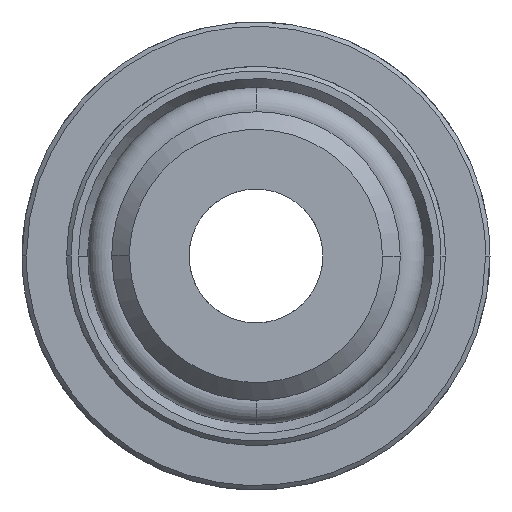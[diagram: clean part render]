
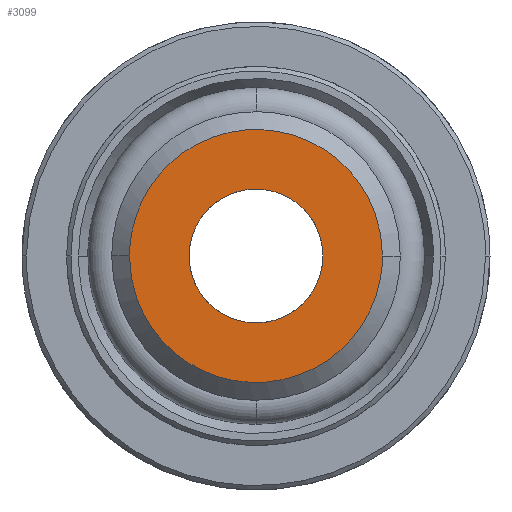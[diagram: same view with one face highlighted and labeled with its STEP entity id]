
A CAD part, front view. The second image highlights one B-rep face of the part: STEP entity #3099.
In plain terms, the highlighted planar face has unit normal (0, -1, 0).
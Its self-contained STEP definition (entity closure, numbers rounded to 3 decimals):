
#32 = CARTESIAN_POINT ( 'NONE',  ( -5.675, 0., -0.745 ) ) ;
#37 = CARTESIAN_POINT ( 'NONE',  ( 1.484, 0., 5.528 ) ) ;
#48 = CARTESIAN_POINT ( 'NONE',  ( 5.528, 0., -1.484 ) ) ;
#51 = CARTESIAN_POINT ( 'NONE',  ( 5.675, 0., 0.745 ) ) ;
#130 = CARTESIAN_POINT ( 'NONE',  ( -2.402, 0., 1.84 ) ) ;
#142 = CARTESIAN_POINT ( 'NONE',  ( 3., 0., 0. ) ) ;
#157 = CARTESIAN_POINT ( 'NONE',  ( -0.397, 0., -3. ) ) ;
#162 = CARTESIAN_POINT ( 'NONE',  ( -3., 0., 0. ) ) ;
#189 = ORIENTED_EDGE ( 'NONE', *, *, #3337, .T. ) ;
#206 = CARTESIAN_POINT ( 'NONE',  ( -2.86, 0., -4.958 ) ) ;
#303 = CARTESIAN_POINT ( 'NONE',  ( 3., 0., 0. ) ) ;
#307 = DIRECTION ( 'NONE',  ( 0., 0., -1. ) ) ;
#322 = CARTESIAN_POINT ( 'NONE',  ( -2.86, 0., 4.958 ) ) ;
#369 = CARTESIAN_POINT ( 'NONE',  ( -1.84, 0., 2.402 ) ) ;
#385 = CARTESIAN_POINT ( 'NONE',  ( -0.781, 0., 2.924 ) ) ;
#413 = CARTESIAN_POINT ( 'NONE',  ( -3., 0., -0.398 ) ) ;
#469 = CARTESIAN_POINT ( 'NONE',  ( 0.781, 0., -2.924 ) ) ;
#530 = CARTESIAN_POINT ( 'NONE',  ( 3.486, 0., -4.539 ) ) ;
#543 = CARTESIAN_POINT ( 'NONE',  ( 5.675, 0., 0. ) ) ;
#572 = VERTEX_POINT ( 'NONE', #2365 ) ;
#644 = CARTESIAN_POINT ( 'NONE',  ( 1.84, 0., 2.402 ) ) ;
#663 = CARTESIAN_POINT ( 'NONE',  ( 2.619, 0., 1.515 ) ) ;
#675 = CARTESIAN_POINT ( 'NONE',  ( -2.619, 0., -1.515 ) ) ;
#783 = ORIENTED_EDGE ( 'NONE', *, *, #2669, .T. ) ;
#791 = CARTESIAN_POINT ( 'NONE',  ( 1.484, 0., -5.528 ) ) ;
#808 = CARTESIAN_POINT ( 'NONE',  ( -5.528, 0., -1.484 ) ) ;
#830 = CARTESIAN_POINT ( 'NONE',  ( 4.958, 0., 2.86 ) ) ;
#908 = CARTESIAN_POINT ( 'NONE',  ( -1.515, 0., 2.619 ) ) ;
#937 = CARTESIAN_POINT ( 'NONE',  ( 3., 0., -0.397 ) ) ;
#958 = CARTESIAN_POINT ( 'NONE',  ( 0.781, 0., 2.924 ) ) ;
#990 = CARTESIAN_POINT ( 'NONE',  ( 0.397, 0., -3. ) ) ;
#1087 = CARTESIAN_POINT ( 'NONE',  ( 5.675, 0., -0.745 ) ) ;
#1091 = CARTESIAN_POINT ( 'NONE',  ( -4.958, 0., 2.86 ) ) ;
#1106 = B_SPLINE_CURVE_WITH_KNOTS ( 'NONE', 3,
 ( #162, #1189, #1498, #3370, #130, #369, #908, #385, #1727, #3315, #958, #1154, #644, #3297, #663, #1990, #2032, #2244 ),
 .UNSPECIFIED., .F., .F.,
 ( 4, 2, 2, 2, 2, 2, 2, 2, 4 ),
 ( 0., 0.063, 0.125, 0.188, 0.25, 0.313, 0.375, 0.438, 0.5 ),
 .UNSPECIFIED. ) ;
#1154 = CARTESIAN_POINT ( 'NONE',  ( 1.515, 0., 2.62 ) ) ;
#1172 = VERTEX_POINT ( 'NONE', #1210 ) ;
#1182 = CARTESIAN_POINT ( 'NONE',  ( 1.515, 0., -2.619 ) ) ;
#1189 = CARTESIAN_POINT ( 'NONE',  ( -3., 0., 0.398 ) ) ;
#1210 = CARTESIAN_POINT ( 'NONE',  ( -5.675, 0., 0. ) ) ;
#1229 = B_SPLINE_CURVE_WITH_KNOTS ( 'NONE', 3,
 ( #1646, #51, #2176, #830, #2969, #1942, #3249, #37, #3303, #1368, #2690, #322, #1908, #2708, #1091, #1892, #2986, #2159 ),
 .UNSPECIFIED., .F., .F.,
 ( 4, 2, 2, 2, 2, 2, 2, 2, 4 ),
 ( 0.5, 0.563, 0.625, 0.688, 0.75, 0.813, 0.875, 0.938, 1. ),
 .UNSPECIFIED. ) ;
#1235 = CARTESIAN_POINT ( 'NONE',  ( -2.924, 0., -0.781 ) ) ;
#1368 = CARTESIAN_POINT ( 'NONE',  ( -0.745, 0., 5.675 ) ) ;
#1469 = CARTESIAN_POINT ( 'NONE',  ( -3., 0., 0. ) ) ;
#1498 = CARTESIAN_POINT ( 'NONE',  ( -2.924, 0., 0.781 ) ) ;
#1506 = CARTESIAN_POINT ( 'NONE',  ( -3.486, 0., -4.539 ) ) ;
#1528 = CARTESIAN_POINT ( 'NONE',  ( -1.84, 0., -2.402 ) ) ;
#1600 = VERTEX_POINT ( 'NONE', #303 ) ;
#1610 = B_SPLINE_CURVE_WITH_KNOTS ( 'NONE', 3,
 ( #142, #937, #2004, #2872, #2609, #2330, #1182, #469, #990, #157, #2259, #3081, #1528, #3331, #675, #1235, #413, #1986 ),
 .UNSPECIFIED., .F., .F.,
 ( 4, 2, 2, 2, 2, 2, 2, 2, 4 ),
 ( 0.5, 0.563, 0.625, 0.688, 0.75, 0.813, 0.875, 0.938, 1. ),
 .UNSPECIFIED. ) ;
#1646 = CARTESIAN_POINT ( 'NONE',  ( 5.675, 0., 0. ) ) ;
#1665 = CARTESIAN_POINT ( 'NONE',  ( -4.338, 0., 0. ) ) ;
#1727 = CARTESIAN_POINT ( 'NONE',  ( -0.397, 0., 3. ) ) ;
#1775 = CARTESIAN_POINT ( 'NONE',  ( -4.958, 0., -2.86 ) ) ;
#1892 = CARTESIAN_POINT ( 'NONE',  ( -5.528, 0., 1.484 ) ) ;
#1905 = AXIS2_PLACEMENT_3D ( 'NONE', #1665, #3271, #307 ) ;
#1908 = CARTESIAN_POINT ( 'NONE',  ( -3.486, 0., 4.539 ) ) ;
#1942 = CARTESIAN_POINT ( 'NONE',  ( 3.486, 0., 4.539 ) ) ;
#1944 = FACE_OUTER_BOUND ( 'NONE', #3183, .T. ) ;
#1986 = CARTESIAN_POINT ( 'NONE',  ( -3., 0., 0. ) ) ;
#1990 = CARTESIAN_POINT ( 'NONE',  ( 2.924, 0., 0.781 ) ) ;
#2002 = ORIENTED_EDGE ( 'NONE', *, *, #2793, .T. ) ;
#2004 = CARTESIAN_POINT ( 'NONE',  ( 2.924, 0., -0.781 ) ) ;
#2032 = CARTESIAN_POINT ( 'NONE',  ( 3., 0., 0.397 ) ) ;
#2090 = EDGE_CURVE ( 'NONE', #2902, #1600, #1106, .T. ) ;
#2122 = CARTESIAN_POINT ( 'NONE',  ( -1.484, 0., -5.528 ) ) ;
#2141 = CARTESIAN_POINT ( 'NONE',  ( -4.539, 0., -3.486 ) ) ;
#2159 = CARTESIAN_POINT ( 'NONE',  ( -5.675, 0., 0. ) ) ;
#2170 = CARTESIAN_POINT ( 'NONE',  ( 4.539, 0., -3.486 ) ) ;
#2176 = CARTESIAN_POINT ( 'NONE',  ( 5.528, 0., 1.484 ) ) ;
#2215 = FACE_BOUND ( 'NONE', #2592, .T. ) ;
#2244 = CARTESIAN_POINT ( 'NONE',  ( 3., 0., 0. ) ) ;
#2259 = CARTESIAN_POINT ( 'NONE',  ( -0.781, 0., -2.924 ) ) ;
#2330 = CARTESIAN_POINT ( 'NONE',  ( 1.84, 0., -2.402 ) ) ;
#2365 = CARTESIAN_POINT ( 'NONE',  ( 5.675, 0., 0. ) ) ;
#2422 = PLANE ( 'NONE',  #1905 ) ;
#2430 = CARTESIAN_POINT ( 'NONE',  ( 4.958, 0., -2.86 ) ) ;
#2446 = CARTESIAN_POINT ( 'NONE',  ( -5.675, 0., 0. ) ) ;
#2586 = CARTESIAN_POINT ( 'NONE',  ( 2.86, 0., -4.958 ) ) ;
#2592 = EDGE_LOOP ( 'NONE', ( #2712, #783 ) ) ;
#2609 = CARTESIAN_POINT ( 'NONE',  ( 2.402, 0., -1.84 ) ) ;
#2669 = EDGE_CURVE ( 'NONE', #1600, #2902, #1610, .T. ) ;
#2690 = CARTESIAN_POINT ( 'NONE',  ( -1.484, 0., 5.528 ) ) ;
#2708 = CARTESIAN_POINT ( 'NONE',  ( -4.539, 0., 3.486 ) ) ;
#2712 = ORIENTED_EDGE ( 'NONE', *, *, #2090, .T. ) ;
#2793 = EDGE_CURVE ( 'NONE', #572, #1172, #1229, .T. ) ;
#2872 = CARTESIAN_POINT ( 'NONE',  ( 2.62, 0., -1.515 ) ) ;
#2902 = VERTEX_POINT ( 'NONE', #1469 ) ;
#2969 = CARTESIAN_POINT ( 'NONE',  ( 4.539, 0., 3.486 ) ) ;
#2986 = CARTESIAN_POINT ( 'NONE',  ( -5.675, 0., 0.746 ) ) ;
#3081 = CARTESIAN_POINT ( 'NONE',  ( -1.515, 0., -2.62 ) ) ;
#3099 = ADVANCED_FACE ( 'NONE', ( #2215, #1944 ), #2422, .T. ) ;
#3183 = EDGE_LOOP ( 'NONE', ( #189, #2002 ) ) ;
#3196 = CARTESIAN_POINT ( 'NONE',  ( 0.745, 0., -5.675 ) ) ;
#3215 = CARTESIAN_POINT ( 'NONE',  ( -0.745, 0., -5.675 ) ) ;
#3249 = CARTESIAN_POINT ( 'NONE',  ( 2.86, 0., 4.958 ) ) ;
#3271 = DIRECTION ( 'NONE',  ( 0., -1., 0. ) ) ;
#3297 = CARTESIAN_POINT ( 'NONE',  ( 2.402, 0., 1.84 ) ) ;
#3303 = CARTESIAN_POINT ( 'NONE',  ( 0.745, 0., 5.675 ) ) ;
#3315 = CARTESIAN_POINT ( 'NONE',  ( 0.397, 0., 3. ) ) ;
#3320 = B_SPLINE_CURVE_WITH_KNOTS ( 'NONE', 3,
 ( #2446, #32, #808, #1775, #2141, #1506, #206, #2122, #3215, #3196, #791, #2586, #530, #2170, #2430, #48, #1087, #543 ),
 .UNSPECIFIED., .F., .F.,
 ( 4, 2, 2, 2, 2, 2, 2, 2, 4 ),
 ( 0., 0.063, 0.125, 0.188, 0.25, 0.313, 0.375, 0.438, 0.5 ),
 .UNSPECIFIED. ) ;
#3331 = CARTESIAN_POINT ( 'NONE',  ( -2.402, 0., -1.84 ) ) ;
#3337 = EDGE_CURVE ( 'NONE', #1172, #572, #3320, .T. ) ;
#3370 = CARTESIAN_POINT ( 'NONE',  ( -2.62, 0., 1.515 ) ) ;
